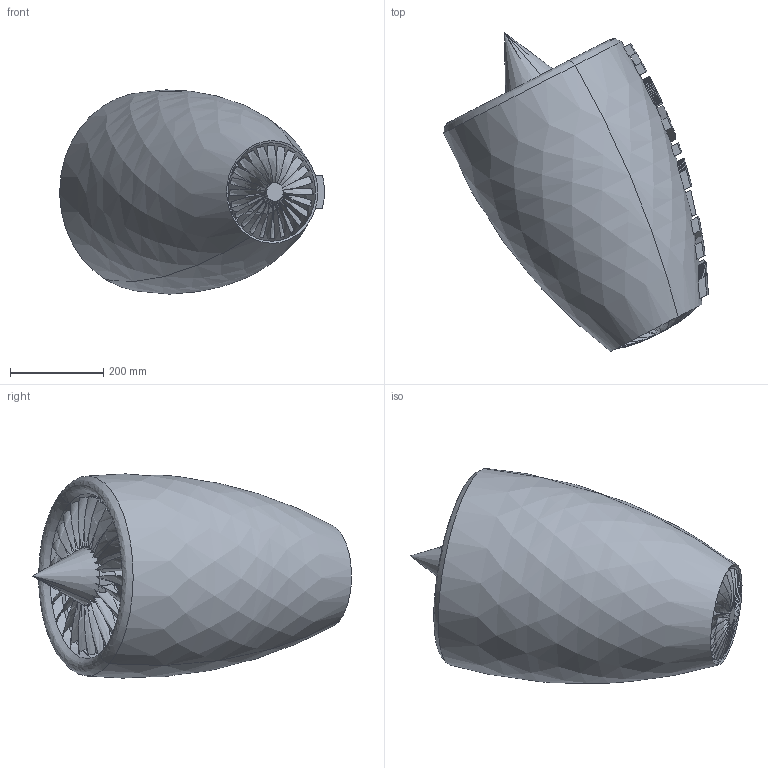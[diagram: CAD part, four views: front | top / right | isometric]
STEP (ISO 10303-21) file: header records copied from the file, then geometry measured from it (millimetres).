
FILE_DESCRIPTION(('CATIA V5 STEP Exchange'),'2;1');
FILE_NAME('C:\Users\riadm\Desktop\CATIA\Jet_Engine\Jet_Engine.stp','2026-05-15T17:13:22+00:00',('none'),('none'),'CATIA Version 5 Release 21 GA (IN-10)','CATIA V5 STEP AP203','none');
FILE_SCHEMA(('CONFIG_CONTROL_DESIGN'));
Products named in the file (1): Jet_Engine
Assembly tree (3 placements, depth 2):
  Jet_Engine
    #58
    #10553
    #32679
Bounding box: 568.77 x 685.11 x 438.72 mm (x, y, z)
Volume: 7538605.2 mm3; surface area: 2268605.4 mm2
Topology: 11 solids, 11 shells, 915 faces, 2480 edges, 1610 vertices
Faces by surface type: plane 632, bspline 123, cylinder 74, extrusion 48, revolution 24, cone 14
Entity records: 45168 total; most frequent: CARTESIAN_POINT 25844, ORIENTED_EDGE 4956, EDGE_CURVE 2478, DIRECTION 2308, B_SPLINE_CURVE_WITH_KNOTS 1680, VERTEX_POINT 1610, EDGE_LOOP 948, ADVANCED_FACE 915
